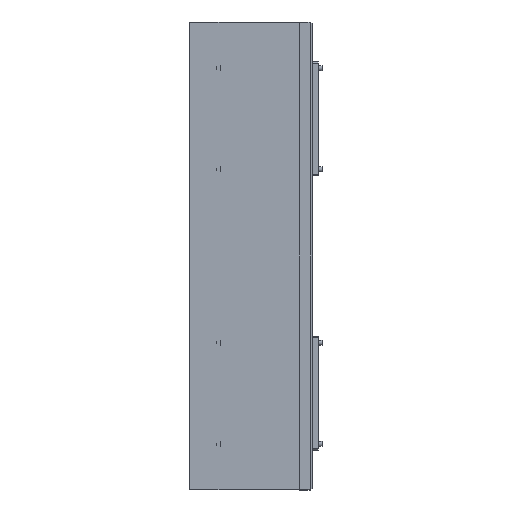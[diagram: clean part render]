
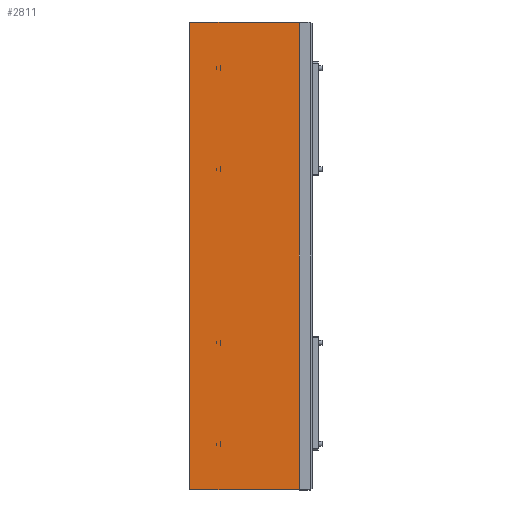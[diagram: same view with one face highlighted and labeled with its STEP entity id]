
A CAD part, left-side view. The second image highlights one B-rep face of the part: STEP entity #2811.
In plain terms, the highlighted planar face has unit normal (-1, 0, 0).
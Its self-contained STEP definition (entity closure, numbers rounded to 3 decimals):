
#4 = CARTESIAN_POINT ( 'NONE',  ( -5., 96.5, -184.75 ) ) ;
#60 = VERTEX_POINT ( 'NONE', #1414 ) ;
#130 = VECTOR ( 'NONE', #2884, 1000. ) ;
#169 = CARTESIAN_POINT ( 'NONE',  ( -5., 96.5, 184.75 ) ) ;
#217 = CARTESIAN_POINT ( 'NONE',  ( -5., 96.5, -184.75 ) ) ;
#445 = DIRECTION ( 'NONE',  ( 0., 0., -1. ) ) ;
#490 = CARTESIAN_POINT ( 'NONE',  ( -5., 96.5, 184.75 ) ) ;
#877 = EDGE_CURVE ( 'NONE', #1579, #60, #994, .T. ) ;
#932 = ORIENTED_EDGE ( 'NONE', *, *, #3290, .T. ) ;
#994 = LINE ( 'NONE', #1256, #130 ) ;
#1114 = ORIENTED_EDGE ( 'NONE', *, *, #1511, .F. ) ;
#1256 = CARTESIAN_POINT ( 'NONE',  ( -5., 10., -184.75 ) ) ;
#1297 = LINE ( 'NONE', #2530, #3681 ) ;
#1414 = CARTESIAN_POINT ( 'NONE',  ( -5., 10., 184.75 ) ) ;
#1511 = EDGE_CURVE ( 'NONE', #1629, #60, #3854, .T. ) ;
#1539 = VERTEX_POINT ( 'NONE', #217 ) ;
#1579 = VERTEX_POINT ( 'NONE', #2036 ) ;
#1629 = VERTEX_POINT ( 'NONE', #490 ) ;
#1636 = FACE_OUTER_BOUND ( 'NONE', #3393, .T. ) ;
#1722 = DIRECTION ( 'NONE',  ( 0., -1., 0. ) ) ;
#2036 = CARTESIAN_POINT ( 'NONE',  ( -5., 10., -184.75 ) ) ;
#2490 = DIRECTION ( 'NONE',  ( 0., 0., 1. ) ) ;
#2501 = EDGE_CURVE ( 'NONE', #1539, #1629, #2662, .T. ) ;
#2530 = CARTESIAN_POINT ( 'NONE',  ( -5., 96.5, -184.75 ) ) ;
#2662 = LINE ( 'NONE', #4, #3086 ) ;
#2678 = VECTOR ( 'NONE', #1722, 1000. ) ;
#2811 = ADVANCED_FACE ( 'NONE', ( #1636 ), #3219, .F. ) ;
#2884 = DIRECTION ( 'NONE',  ( 0., 0., 1. ) ) ;
#3086 = VECTOR ( 'NONE', #2490, 1000. ) ;
#3219 = PLANE ( 'NONE',  #3703 ) ;
#3290 = EDGE_CURVE ( 'NONE', #1539, #1579, #1297, .T. ) ;
#3393 = EDGE_LOOP ( 'NONE', ( #3984, #1114, #3694, #932 ) ) ;
#3515 = DIRECTION ( 'NONE',  ( 0., -1., 0. ) ) ;
#3624 = CARTESIAN_POINT ( 'NONE',  ( -5., 96.5, -184.75 ) ) ;
#3681 = VECTOR ( 'NONE', #3515, 1000. ) ;
#3694 = ORIENTED_EDGE ( 'NONE', *, *, #2501, .F. ) ;
#3703 = AXIS2_PLACEMENT_3D ( 'NONE', #3624, #3967, #445 ) ;
#3854 = LINE ( 'NONE', #169, #2678 ) ;
#3967 = DIRECTION ( 'NONE',  ( 1., 0., 0. ) ) ;
#3984 = ORIENTED_EDGE ( 'NONE', *, *, #877, .T. ) ;
